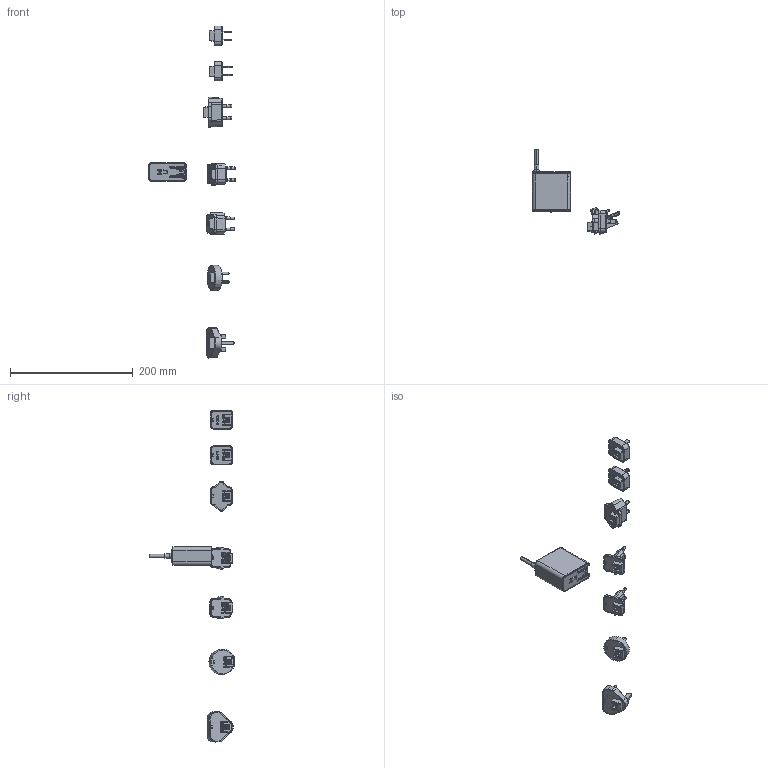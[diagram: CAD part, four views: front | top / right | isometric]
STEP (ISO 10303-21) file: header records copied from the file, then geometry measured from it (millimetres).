
FILE_DESCRIPTION(('Creo Elements/Direct Modeling STEP Export'),'2;1');
FILE_NAME('NGE30-45-65I.stp','2025-09-30T10:50:50',(''),(''),'Creo Elements/Direct Modeling STEP processor for AP214 (Solid Model)','Creo Elements/Direct Modeling 19.0G 27-Nov-2017 (C) Parametric Technology GmbH','');
FILE_SCHEMA(('AUTOMOTIVE_DESIGN { 1 0 10303 214 1 1 1 1 }'));
Length unit declared in the file: millimetre
Products named in the file (227): WW_1_1_PRT-6150_PRT.PRT; WW_1_1_PRT-6480_ASM.ASM; RPA_PRT_1_1_1_PRT_5_ASM.ASM; RPA_PRT_1_1_1_PRT-13900_ASM.ASM.1; case本體; RPA_PRT_1_1_1_PRT-13290_PRT.PRT; WS; RPA_PRT_1_1_1_PRT-13900_ASM.ASM; NGE90后盖; BOARD.PRT; 装配1; _X2_96F64EF6_X0_1.PRT; ZHAOFAA4CA11JC19_1_PRT_PRT_PRT_.PRT; ZHAOFAA4CA11JC19_2_PRT_PRT_PRT_.PRT; ZHAOFAA4CA11JC19_3_PRT_PRT_PRT_.PRT; ZHAOFAA4CA11JC19_4_PRT_PRT_PRT_.PRT; ZHAOFAA4CA11JC19_5_PRT_PRT_PRT_.PRT; ZHAOFAA4CA11JC19_ASM_ASM_ASM_AS.ASM; EU_1__STP_ASM_ASM_ASM_ASM_ASM.ASM; _X2_96F64EF6_X0_7_PRT_PRT-12340.PRT; _X2_96F64EF6_X0_7_PRT_PRT-12670.ASM; _X2_96F64EF6_X0_6_PRT_PRT-25020.PRT; _X2_96F64EF6_X0_6_PRT_PRT-25350.ASM; _X2_96F64EF6_X0_4_PRT_PRT-37700.PRT; _X2_96F64EF6_X0_4_PRT_PRT-38030.ASM; _X2_96F64EF6_X0_3_PRT_PRT-50380.PRT; _X2_96F64EF6_X0_3_PRT_PRT-50710.ASM; _X2_96F64EF6_X0_2_PRT_PRT-67280.PRT; _X2_96F64EF6_X0_2_PRT_PRT-67610.ASM; _X2_96F64EF6_X0_1_PRT_P--174510.PRT; _X2_96F64EF6_X0_1_PRT_P--177310.ASM; _X2_5F397247_X0_2_PRT_PR-189200.PRT; _X2_5F397247_X0_2_PRT_PR-189530.ASM; _X2_5F397247_X0_-195600_-201420.PRT; _X2_5F397247_X0_-195600_-201750.ASM; _X2_540E76D6_X0__PRT_PRT-320290.PRT; _X2_540E76D6_X0__PRT_PRT-323730.ASM; ZHAO54408073H96W_7_PRT_P-331140.PRT; ZHAO54408073H96W_7_PRT_P-331470.ASM; ZHAO54408073H96W_15_PRT_-338880.PRT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
Assembly tree (225 placements, depth 23):
  装配1
    BOARD.PRT
    NGE90后盖
    RPA_PRT_1_1_1_PRT-13900_ASM.ASM
      WW_1_1_PRT-6480_ASM.ASM
        WW_1_1_PRT-6150_PRT.PRT
      WS
      RPA_PRT_1_1_1_PRT_5_ASM.ASM
        RPA_PRT_1_1_1_PRT-13290_PRT.PRT
      RPA_PRT_1_1_1_PRT-13290_PRT.PRT
    case本體
    RPA_PRT_1_1_1_PRT-13900_ASM.ASM.1
      RPA_PRT_1_1_1_PRT_5_ASM.ASM
      WW_1_1_PRT-6480_ASM.ASM
        WW_1_1_PRT-6150_PRT.PRT
  ____-20250928.stp
    NGE____-20250918_STP.ASM
      _X2_96F64EF6_X0_1_PRT.PRT
      NGE____-20250726_STP_ASM.ASM
        321_STP_ASM_ASM.ASM
          _X2_97627EC4_X0__1-247910_ASM_A.ASM
            _X2_97627EC4_X0__1-241300_PRT_P.PRT
        MW2025001__-25_7_24_STP_ASM_ASM.ASM
          ADMI3E441977U5M5_PRT-2122310_PR.PRT
        MW2025001__-25_7_24_STP_1_ASM_A.ASM
          ADMI3E441977U5M5_PRT-2029300_PR.PRT
        NGE____-20250627_STP_ASM_ASM.ASM
          _X2_96F64EF6_X0_1_PRT_PRT_PRT.PRT
          NGE____-20250624_STP_ASM_ASM_AS.ASM
            NGE_____STP_ASM_ASM_ASM_ASM.ASM
              _X2_96F64EF6_X0_1_PRT_PRT_PRT_P.PRT
              NGE____-20250618_STP_ASM_ASM_AS.ASM
                ZHAO1E64C46CAO2S_20_PRT-1438860.ASM
                  ZHAO1E64C46CAO2S_20_PRT-1436130.PRT
                NGE____-20250527_STP_ASM_ASM_AS.ASM
                  _X2_96F64EF6_X0_1_PRT_PRT-97070.PRT
                  NGE____-20250527_STP_ASM-534480.ASM
                ZHAO1E64C46CAO2S_5_PRT_P-190810.ASM
                  ZHAO1E64C46CAO2S_5_PRT_P-190340.PRT
                _X2_96F64EF6_X0_1_PRT_PR-536450.PRT
              NGE____-20250524_STP_ASM_ASM_AS.ASM
                ADMI2C6073B82TSY_13_PRT-1827950.PRT
                ADMI2C6073B82TSY_18_PRT-1780910.ASM
                  ADMI2C6073B82TSY_18_PRT-1780520.PRT
                ADMI2C6073B82TSY_19_PRT-1771150.ASM
                  ADMI2C6073B82TSY_19_PRT-1770760.PRT
                PIN_PRT_PRT_PRT_PRT_PRT-1761390.ASM
                  PIN_PRT_PRT_PRT_PRT_PRT-1761060.PRT
                SSSQAA-231490_PRT_PRT_P-1747390.ASM
                  SSSQAA-231490_PRT_PRT_P-1747060.PRT
                SSSQAA-231490_PRT_PRT_P-1736170.ASM
                  SSSQAA-231490_PRT_PRT_P-1735840.PRT
                SSSQAAQQ-250940_PRT_PRT-1724950.ASM
                  SSSQAAQQ-250940_PRT_PRT-1724620.PRT
                SSSQAAQQ-250940_PRT_PRT-1713730.ASM
                  SSSQAAQQ-250940_PRT_PRT-1713400.PRT
                XX_1_PRT_PRT_PRT_PRT_PR-1702510.ASM
                  XX_1_PRT_PRT_PRT_PRT_PR-1702180.PRT
                XX_PRT_PRT_PRT_PRT_PRT_-1690990.PRT
                X_1-398720_PRT_PRT_PRT_-1678310.ASM
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Bounding box: 141.68 x 139.07 x 540.2 mm (x, y, z)
Volume: 109659.4 mm3; surface area: 133103.6 mm2
Topology: 53 solids, 55 shells, 6649 faces, 18987 edges, 12608 vertices
Faces by surface type: plane 4501, cylinder 1318, cone 250, bspline 229, extrusion 217, torus 96, sphere 37, revolution 1
Entity records: 279159 total; most frequent: CARTESIAN_POINT 63566, ORIENTED_EDGE 37808, DIRECTION 32468, EDGE_CURVE 18904, VECTOR 13957, LINE 13740, VERTEX_POINT 12580, AXIS2_PLACEMENT_3D 9255
